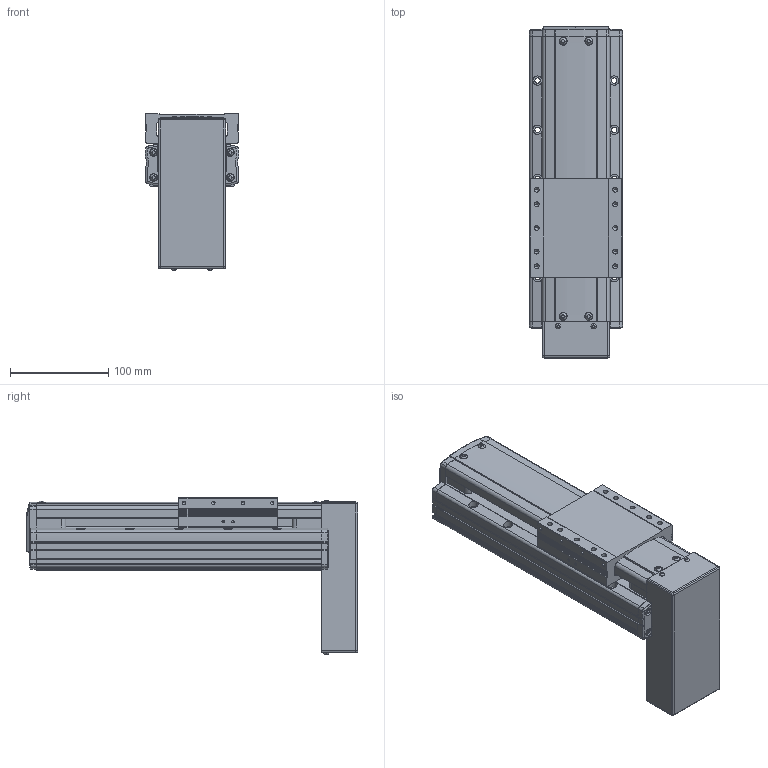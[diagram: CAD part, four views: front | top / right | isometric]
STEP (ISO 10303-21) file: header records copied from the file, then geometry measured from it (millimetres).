
FILE_DESCRIPTION(('STEP AP214'),'1');
FILE_NAME('Z:/Web/3D/PSA95/STP/PSA95-100 (3D)/PSA95ㅁㅁ-100PB.stp','2014-07-02T23:37:17',(' '),(' '),'Spatial InterOp 3D',' ',' ');
FILE_SCHEMA(('automotive_design'));
Length unit declared in the file: millimetre
Products named in the file (29): BASE; RRCV; 스크루 : Round - M4.0 x 10.0; 너트 : Square - M10.0 x 220.7419; RR1500; FRCV-090; 스크루 : Round - M4.0 x 6.0; SLBL-PA90; MTPL COVER; 스크루 : Round - M3.0 x 6.0; 1; 2
Bounding box: 95.1 x 337.5 x 159.57 mm (x, y, z)
Volume: 2081023.5 mm3; surface area: 256034.2 mm2
Topology: 29 solids, 29 shells, 1933 faces, 5145 edges, 3291 vertices
Faces by surface type: plane 1122, cylinder 541, cone 182, sphere 50, bspline 24, torus 14
Entity records: 77676 total; most frequent: CARTESIAN_POINT 13237, DIRECTION 10188, ORIENTED_EDGE 10082, EDGE_CURVE 5041, LINE 3476, VECTOR 3476, AXIS2_PLACEMENT_3D 3356, VERTEX_POINT 3291
